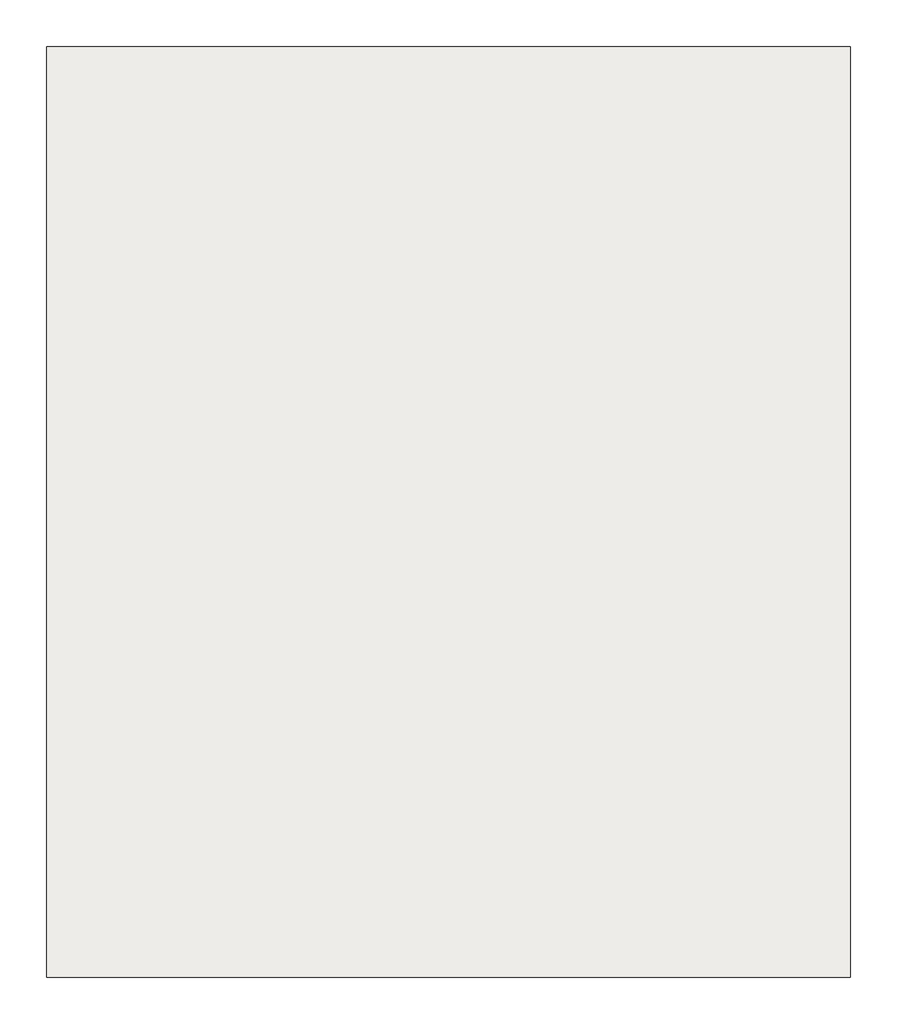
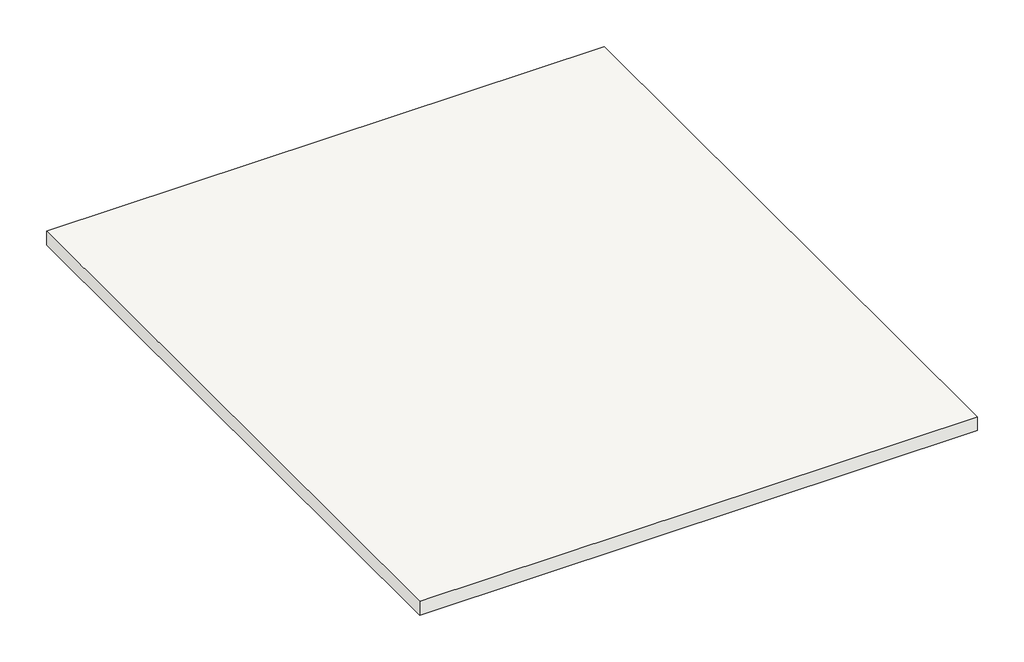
# One storey, incomplete: 1 slab.
"""IFC4 building model written with IfcOpenShell, lengths in millimetres."""

import ifcopenshell
import ifcopenshell.guid

model = None  # the IFC model being written
_history = None  # IfcOwnerHistory: only IFC2X3 demands one
_inside = {}  # id of a spatial element -> (the spatial element, [elements in it])
_under = {}  # id of a project, library or spatial element -> (it, [spatial elements below it])
_declared = {}  # id of a project -> (the project, [libraries it declares])
_typed = {}  # id of a type object -> (the type object, [elements of that type])
_made_of = {}  # id of a material, layer set ... -> (it, [elements and type objects made of it])


def new_model(schema):
    """Start an empty IFC model of exactly this schema.

    Asked for "IFC4X3", IfcOpenShell would pick the latest addendum, in which some entities
    have other attributes; the version numbers below select the first issue.
    IFC2X3 requires an IfcOwnerHistory on every rooted entity: one is made here for all.
    """
    global model, _history
    if schema == "IFC4X3":
        model = ifcopenshell.file(schema_version=(4, 3, 0, 0))
    else:
        model = ifcopenshell.file(schema=schema)
    _inside.clear()
    _under.clear()
    _declared.clear()
    _typed.clear()
    _made_of.clear()
    _history = None
    if model.schema == "IFC2X3":
        org = make("IfcOrganization", Name="unknown")
        user = make(
            "IfcPersonAndOrganization",
            ThePerson=make("IfcPerson", FamilyName="unknown"),
            TheOrganization=org,
        )
        app = make(
            "IfcApplication",
            ApplicationDeveloper=org,
            Version="unknown",
            ApplicationFullName="unknown",
            ApplicationIdentifier="unknown",
        )
        _history = make(
            "IfcOwnerHistory",
            OwningUser=user,
            OwningApplication=app,
            ChangeAction="ADDED",
            CreationDate=0,
        )
    return model


def make(cls, **values):
    """One entity of the class cls with the attributes given. An attribute that is None is left unset."""
    return model.create_entity(
        cls, **{name: value for name, value in values.items() if value is not None}
    )


def rooted(cls, **values):
    """An entity with a GlobalId (a new one), such as an element, a storey or a relation."""
    return make(cls, GlobalId=ifcopenshell.guid.new(), OwnerHistory=_history, **values)


def si_unit(unit_type, name, prefix=None):
    """IfcSIUnit, for example si_unit("LENGTHUNIT", "METRE", prefix="MILLI")."""
    return make("IfcSIUnit", UnitType=unit_type, Prefix=prefix, Name=name)


def assignment(units):
    """IfcUnitAssignment: the units of a project."""
    return None if units is None else make("IfcUnitAssignment", Units=units)


def point(xyz):
    """IfcCartesianPoint."""
    return None if xyz is None else make("IfcCartesianPoint", Coordinates=xyz)


def direction(xyz):
    """IfcDirection."""
    return None if xyz is None else make("IfcDirection", DirectionRatios=xyz)


def frame(location, z_axis=None, x_axis=None):
    """IfcAxis2Placement3D, a coordinate frame: its origin and axes. An axis left out is left unset."""
    return make(
        "IfcAxis2Placement3D",
        Location=point(location),
        Axis=direction(z_axis),
        RefDirection=direction(x_axis),
    )


def origin():
    """The frame at (0, 0, 0) with its axes left unset."""
    return frame((0.0, 0.0, 0.0))


def place(relative_to, where):
    """IfcLocalPlacement: puts the frame where relative to a parent placement (None: the world)."""
    return make(
        "IfcLocalPlacement", PlacementRelTo=relative_to, RelativePlacement=where
    )


def context(
    kind, dimensions, precision=None, world=None, true_north=None, identifier=None
):
    """IfcGeometricRepresentationContext, for example the 3D "Model" context."""
    return make(
        "IfcGeometricRepresentationContext",
        ContextIdentifier=identifier,
        ContextType=kind,
        CoordinateSpaceDimension=dimensions,
        Precision=precision,
        WorldCoordinateSystem=world,
        TrueNorth=true_north,
    )


def project(units=None, contexts=None):
    """IfcProject with its units and contexts."""
    return rooted(
        "IfcProject",
        Name="project",
        RepresentationContexts=contexts,
        UnitsInContext=assignment(units),
    )


def spatial(cls, under=None, at=None, **own):
    """A site, building, storey or space (cls), placed at a placement, below another one or the project."""
    s = rooted(cls, ObjectPlacement=at, **own)
    if under is not None:
        _under.setdefault(under.id(), (under, []))[1].append(s)
    return s


def polyline(points):
    """IfcPolyline through the points."""
    return make("IfcPolyline", Points=[point(p) for p in points])


def outline(outer, holes=None, kind="AREA"):
    """IfcArbitraryClosedProfileDef: a profile drawn as a closed curve; with holes, ...WithVoids."""
    if holes is None:
        return make("IfcArbitraryClosedProfileDef", ProfileType=kind, OuterCurve=outer)
    return make(
        "IfcArbitraryProfileDefWithVoids",
        ProfileType=kind,
        OuterCurve=outer,
        InnerCurves=holes,
    )


def extrude(swept, where, along, depth):
    """IfcExtrudedAreaSolid: the profile swept, set in the frame where, extruded along a direction by depth."""
    return make(
        "IfcExtrudedAreaSolid",
        SweptArea=swept,
        Position=where,
        ExtrudedDirection=direction(along),
        Depth=depth,
    )


def shape(context_of_items, identifier, shape_type, items):
    """IfcShapeRepresentation: the items that make up one representation, for example the "Body"."""
    return make(
        "IfcShapeRepresentation",
        ContextOfItems=context_of_items,
        RepresentationIdentifier=identifier,
        RepresentationType=shape_type,
        Items=items,
    )


def made_of(thing, what):
    """Note that an element or type object is made of a material, layer set ...; save() writes the relation."""
    if what is not None:
        _made_of.setdefault(what.id(), (what, []))[1].append(thing)
    return thing


def element(
    cls,
    number,
    at=None,
    inside=None,
    cuts=None,
    type_object=None,
    material=None,
    context=None,
    identifier="Body",
    shape_type=None,
    held_by="IfcProductDefinitionShape",
    body=None,
    shapes=None,
    **own,
):
    """One element of the class cls, such as IfcWall. Its Tag is "e" and its number.

    at: its placement. inside: the storey or other place that contains it. cuts: it is an
    opening in that element (IfcRelVoidsElement). A single representation is given by context,
    identifier, shape_type and body (its items); several are given by shapes. held_by: the class
    of the entity that holds the representations. save() writes the other relations.
    """
    e = rooted(cls, Tag="e%d" % number, ObjectPlacement=at, **own)
    if body is not None:
        shapes = [shape(context, identifier, shape_type, body)]
    if shapes is not None:
        e.Representation = make(held_by, Representations=shapes)
    if inside is not None:
        _inside.setdefault(inside.id(), (inside, []))[1].append(e)
    if cuts is not None:
        rooted(
            "IfcRelVoidsElement", RelatingBuildingElement=cuts, RelatedOpeningElement=e
        )
    if type_object is not None:
        _typed.setdefault(type_object.id(), (type_object, []))[1].append(e)
    return made_of(e, material)


def aggregate(whole, parts):
    """IfcRelAggregates: a whole, such as a stair, and the parts it consists of."""
    return rooted("IfcRelAggregates", RelatingObject=whole, RelatedObjects=parts)


def save(model, path):
    """Write the relations noted so far, then the file.

    IfcRelAggregates (storeys below a building ...), IfcRelContainedInSpatialStructure (elements
    in a storey), IfcRelDefinesByType, IfcRelAssociatesMaterial and IfcRelDeclares: one each for
    every whole, place, type object, material and project.
    """
    for whole, parts in _under.values():
        aggregate(whole, parts)
    for where, things in _inside.values():
        rooted(
            "IfcRelContainedInSpatialStructure",
            RelatedElements=things,
            RelatingStructure=where,
        )
    for kind, things in _typed.values():
        rooted("IfcRelDefinesByType", RelatedObjects=things, RelatingType=kind)
    for what, things in _made_of.values():
        rooted("IfcRelAssociatesMaterial", RelatedObjects=things, RelatingMaterial=what)
    for by, libraries in _declared.values():
        rooted("IfcRelDeclares", RelatingContext=by, RelatedDefinitions=libraries)
    model.write(path)


model = new_model("IFC4")

# Units and contexts
model_context = context("Model", 3, world=origin())
ifc_project = project(units=[si_unit("LENGTHUNIT", "METRE", prefix="MILLI")], contexts=[model_context])

# Site, building, storey
site = spatial("IfcSite", under=ifc_project)
building = spatial("IfcBuilding", under=site)
storey = spatial("IfcBuildingStorey", under=building, Name="Elly Chair", Elevation=0.0)

# Slab
placement = place(None, origin())
element("IfcSlab", 1, ObjectType="Floor 1", at=placement, inside=storey, context=model_context, shape_type="SweptSolid", body=[
    extrude(outline(polyline([(5300.7249398, 13690.7626953), (5300.7249398, 9290.7626953), (1500.7249398, 9290.7626953), (1500.7249398, 13690.7626953), (5300.7249398, 13690.7626953)])), frame((0.0, 0.0, -101.0), z_axis=(0.0, 0.0, 1.0), x_axis=(1.0, 0.0, 0.0)), (0.0, 0.0, 1.0), 100.0),
])

save(model, "model.ifc")
